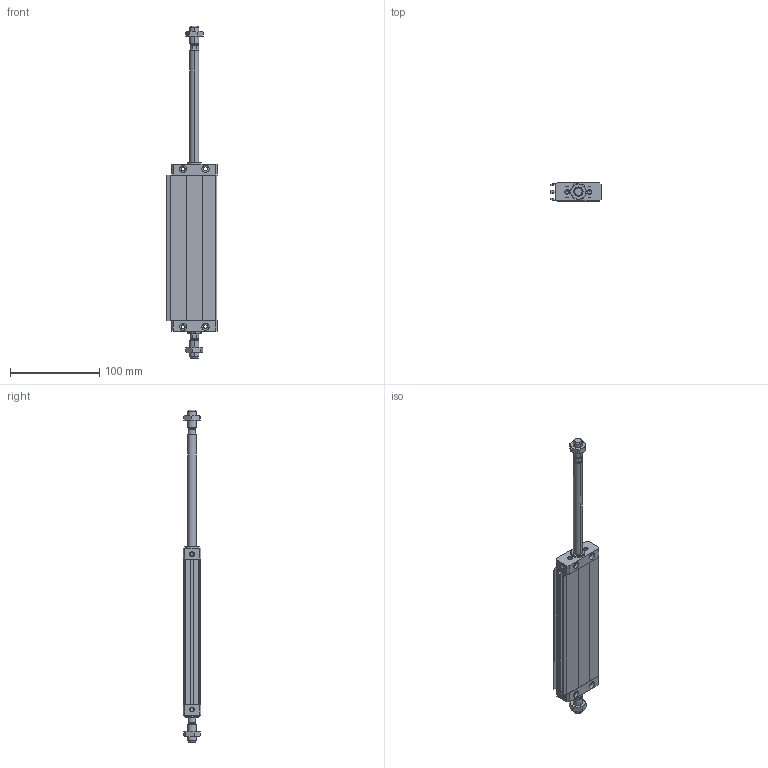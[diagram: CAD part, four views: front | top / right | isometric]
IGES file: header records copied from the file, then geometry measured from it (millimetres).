
Global section: file name: No Iges File Name specified; native system: Autodesk Inventor 2011; preprocessor: AutoDesk Inventor Iges Exporter R2011; author: airolcr1; date: 20101213.152834; units: millimetre
Bounding box: 56.25 x 20 x 372 mm (x, y, z)
Volume: 144654.6 mm3; surface area: 72384.5 mm2
Topology: 6 solids, 6 shells, 282 faces, 664 edges, 392 vertices
Faces by surface type: bspline 117, plane 97, cone 36, cylinder 18, revolution 14
